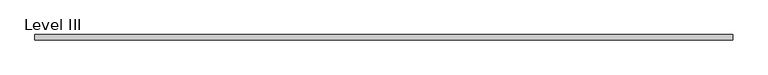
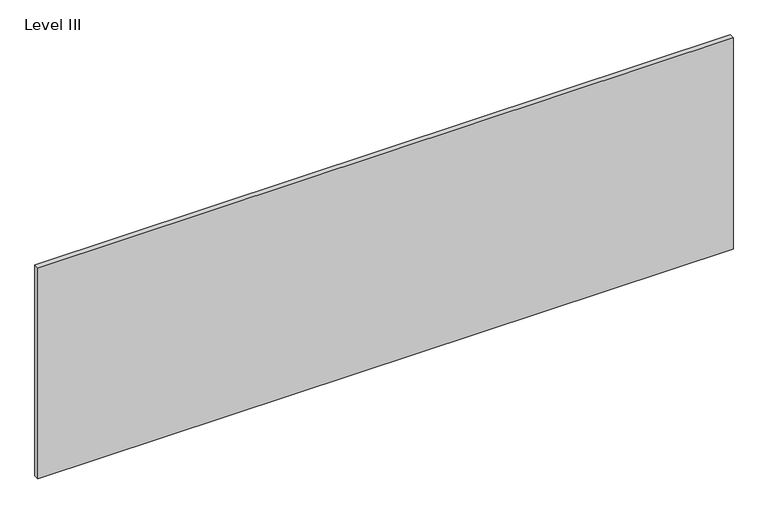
"""IFC4 building model written with IfcOpenShell, lengths in millimetres: proxy geometry, Panel-Fascia-Teknion-Altos-Landscape : Level III."""

from ifc_helpers import new_model, si_unit, frame, origin, place, context, project, spatial, polyline, outline, extrude, source, transform, mapped, element, save


def level_iii_156669a2(model_context):
    return source(origin(), model_context, "Body", "SweptSolid", [
        extrude(outline(polyline([(1252.8407125, -9.525), (-1252.8407125, -9.525), (-1252.8407125, 9.525), (1252.8407125, 9.525), (1252.8407125, -9.525)])), frame((0.0, 0.0, 3.175), z_axis=(0.0, 0.0, 1.0), x_axis=(1.0, 0.0, 0.0)), (0.0, 0.0, 1.0), 804.418),
    ])


if __name__ == "__main__":
    model = new_model("IFC4")
    model_context = context("Model", 3, world=origin())
    ifc_project = project(units=[si_unit("LENGTHUNIT", "METRE", prefix="MILLI")], contexts=[model_context])
    site = spatial("IfcSite", under=ifc_project)
    building = spatial("IfcBuilding", under=site)
    placement = place(None, origin())
    level_iii_shape = level_iii_156669a2(model_context)
    element("IfcBuildingElementProxy", 1, Name="Panel-Fascia-Teknion-Altos-Landscape : Level III", ObjectType="Panel-Fascia-Teknion-Altos-Landscape : Level III", at=placement, inside=building, context=model_context, shape_type="MappedRepresentation", body=[
        mapped(level_iii_shape, transform((0.0, 0.0, 0.0), x_axis=(1.0, 0.0, 0.0), y_axis=(0.0, 1.0, 0.0), z_axis=(0.0, 0.0, 1.0))),
    ])
    save(model, "model.ifc")
